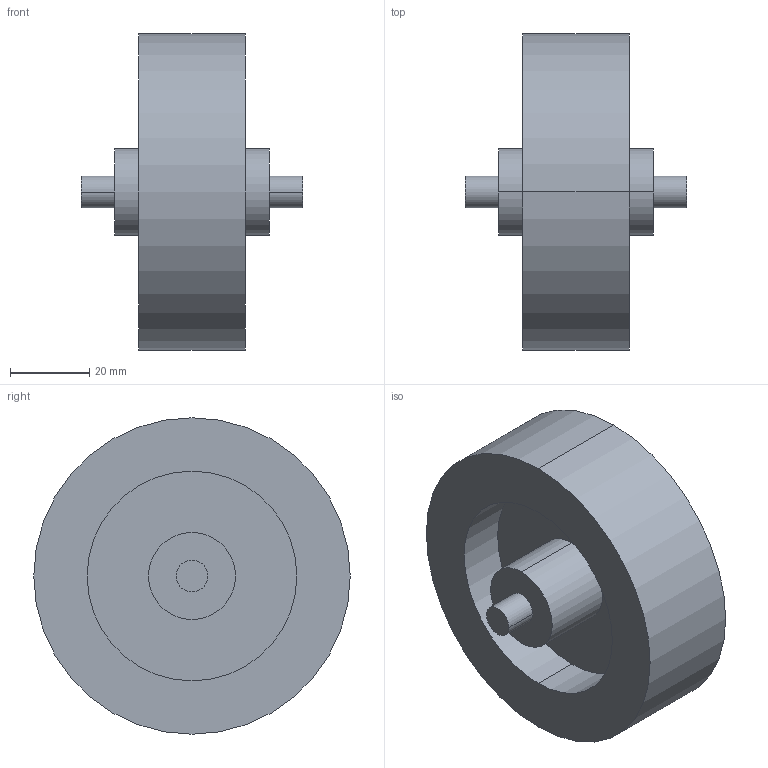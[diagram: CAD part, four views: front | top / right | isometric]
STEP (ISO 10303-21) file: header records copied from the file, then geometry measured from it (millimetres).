
FILE_DESCRIPTION((''),'2;1');
FILE_NAME('RUF080N_1','2002-12-27T',('Lipro doo'),('Lipro d.o.o.'),'PRO/ENGINEER BY PARAMETRIC TECHNOLOGY CORPORATION, 2001150','PRO/ENGINEER BY PARAMETRIC TECHNOLOGY CORPORATION, 2001150','');
FILE_SCHEMA(('CONFIG_CONTROL_DESIGN'));
Length unit declared in the file: millimetre
Products named in the file (1): RUF080N_1
Bounding box: 56 x 80 x 80 mm (x, y, z)
Volume: 97307.7 mm3; surface area: 23750.4 mm2
Topology: 1 solids, 1 shells, 22 faces, 42 edges, 28 vertices
Faces by surface type: cylinder 14, plane 8
Entity records: 612 total; most frequent: DIRECTION 114, CARTESIAN_POINT 92, ORIENTED_EDGE 84, AXIS2_PLACEMENT_3D 50, EDGE_CURVE 42, VERTEX_POINT 28, EDGE_LOOP 28, CIRCLE 28
